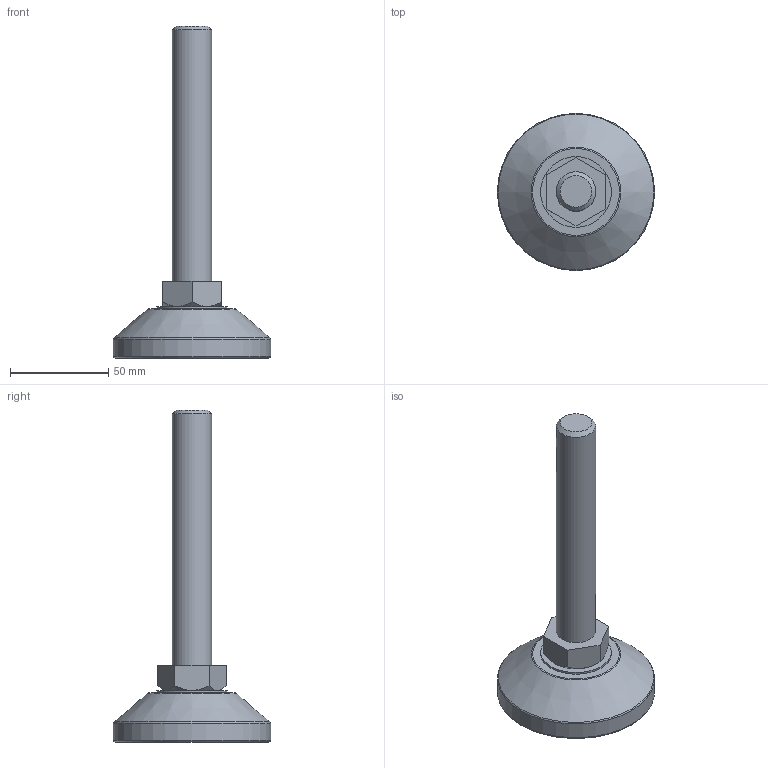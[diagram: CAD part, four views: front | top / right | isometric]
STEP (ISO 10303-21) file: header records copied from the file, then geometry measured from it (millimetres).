
FILE_DESCRIPTION(/* description */ (''),/* implementation_level */ '2;1');
FILE_NAME(/* name */ 'D:\조절자\F\F-M20-130L.stp',/* time_stamp */ '2016-03-14T14:30:52+09:00',/* author */ ('GS-DT-1-001'),/* organization */ (''),/* preprocessor_version */ 'ST-DEVELOPER v15.6',/* originating_system */ 'Autodesk Inventor LT ',/* authorisation */ '');
FILE_SCHEMA (('AUTOMOTIVE_DESIGN { 1 0 10303 214 3 1 1 }'));
Length unit declared in the file: millimetre
Products named in the file (1): F-M20-130L
Bounding box: 80 x 80 x 169 mm (x, y, z)
Volume: 118746.7 mm3; surface area: 30710 mm2
Topology: 4 solids, 4 shells, 46 faces, 82 edges, 51 vertices
Faces by surface type: plane 21, cylinder 13, cone 8, torus 4
Full cylindrical faces by diameter (mm): 6.912 x1, 8 x1, 8.2 x1, 8.3 x1, 16 x1, 20 x1, 36 x1, 50 x1, 57 x1, 61 x1, 71 x1, 75 x1, 80 x1
Entity records: 995 total; most frequent: DIRECTION 180, CARTESIAN_POINT 163, ORIENTED_EDGE 110, AXIS2_PLACEMENT_3D 84, EDGE_LOOP 82, EDGE_CURVE 55, VERTEX_POINT 49, FACE_OUTER_BOUND 46
